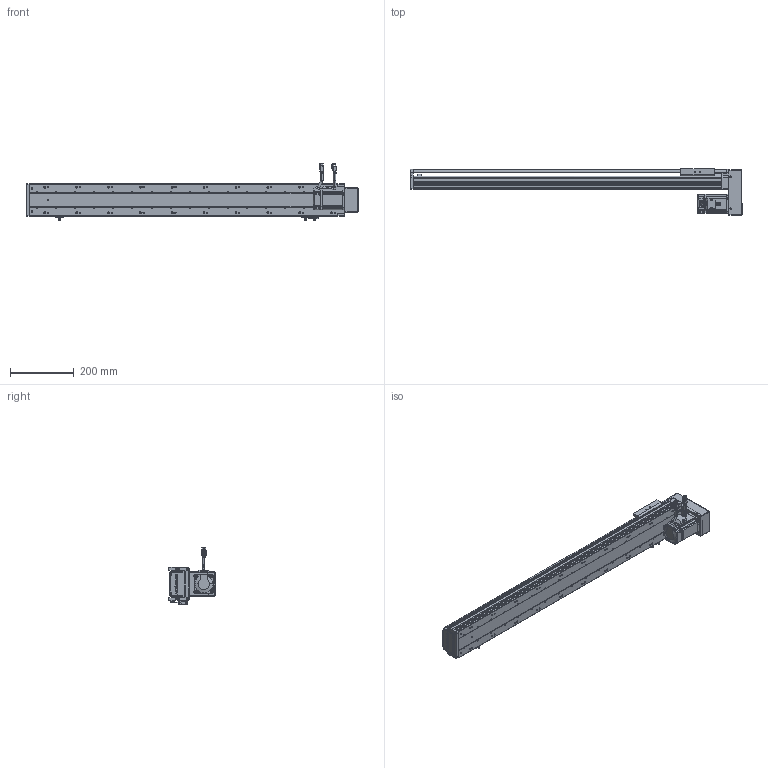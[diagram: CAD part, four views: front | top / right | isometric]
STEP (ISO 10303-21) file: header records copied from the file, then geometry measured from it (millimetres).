
FILE_DESCRIPTION (( 'STEP AP203' ), '1' );
FILE_NAME ('RY100S-L1620-300-BK(15双轨).SLDASM_800.step', '2021-02-20T08:23:42', ( '盈信电脑' ), ( '东莞市道滘镇水果街19号' ), 'SwSTEP 2.0', 'SolidWorks 2012', '' );
FILE_SCHEMA (( 'CONFIG_CONTROL_DESIGN' ));
Products named in the file (26): RY100S-L1620-300-BK(15邧寢).SLDASM_800; 肮祭湍5M遵15笚酗260; RY100S-狟殏萇儂郪; RY100S下折电机安装板（15双轨）; 侂狟200W萇儂; 7; 6; 5; 2; 4; 3; 1; RY100S狟殏萇儂欶(15邧寢); 3M30喘15遵; RY80肮祭湍覃踡啣; RY100S-絳寢EGH15-350-LK(腴郪15邧寢)_800; RY100綴裔啣; 滅袉蝶18-24; RY80肮祭湍芢雄輸; RY100S转折电机端支撑座(15双轨); 覜茼ん672; 滅袉蝶18-10; RY100俋离覜茼え; RY100S铝滑块（15双轨单滑块）底组装导轨; RY100S-350-LK型材底座(低组15双轨)_800; RY100S-300-LK转折型材上盖(15双轨)_800
Assembly tree (28 placements, depth 4):
  RY100S-L1620-300-BK(15邧寢).SLDASM_800
    RY100S-350-LK型材底座(低组15双轨)_800
    RY100S-300-LK转折型材上盖(15双轨)_800
    RY100S铝滑块（15双轨单滑块）底组装导轨
    覜茼ん672  x3
    滅袉蝶18-10
    RY100俋离覜茼え
    RY100S转折电机端支撑座(15双轨)
    滅袉蝶18-24
    RY100綴裔啣
    RY100S-絳寢EGH15-350-LK(腴郪15邧寢)_800
    RY100S-狟殏萇儂郪
      RY80肮祭湍芢雄輸  x2
      RY100S狟殏萇儂欶(15邧寢)
      3M30喘15遵
      RY80肮祭湍覃踡啣
      侂狟200W萇儂
        1
        2
        3
        4
        5
        6
        7
      肮祭湍5M遵15笚酗260
      RY100S下折电机安装板（15双轨）
Bounding box: 1042 x 147 x 179.5 mm (x, y, z)
Volume: 2541603.4 mm3; surface area: 1004976.2 mm2
Topology: 26 solids, 26 shells, 3439 faces, 9283 edges, 5994 vertices
Faces by surface type: plane 1769, cylinder 1387, cone 169, bspline 114
Entity records: 112502 total; most frequent: CARTESIAN_POINT 28018, ORIENTED_EDGE 17270, DIRECTION 16728, EDGE_CURVE 8635, AXIS2_PLACEMENT_3D 5765, VERTEX_POINT 5630, LINE 5198, VECTOR 5198
